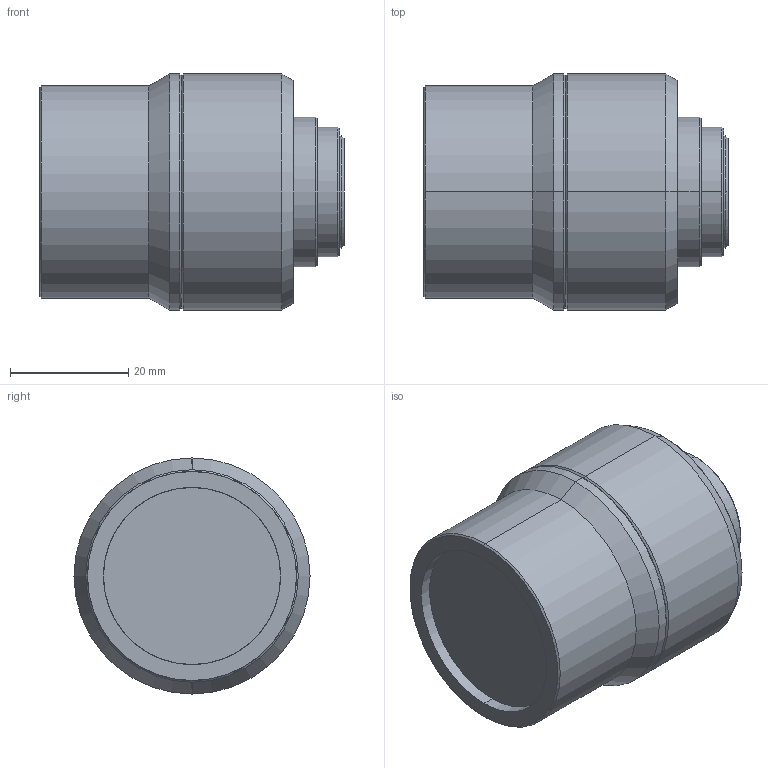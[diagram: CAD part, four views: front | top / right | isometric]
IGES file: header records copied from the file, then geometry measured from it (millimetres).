
Start section: SolidWorks IGES file using analytic representation for surfaces
Global section: file name: C:\Users\16255\Desktop\WWT118-025-160.IGS; native system: SolidWorks 2017; preprocessor: SolidWorks 2017; author: 16255; date: 210730.084512; units: millimetre
Bounding box: 51.6 x 40 x 40 mm (x, y, z)
Surface area: 8160.9 mm2 (no closed solid volume)
Topology: 0 solids, 0 shells, 36 faces, 568 edges, 568 vertices
Faces by surface type: revolution 30, bspline 6
